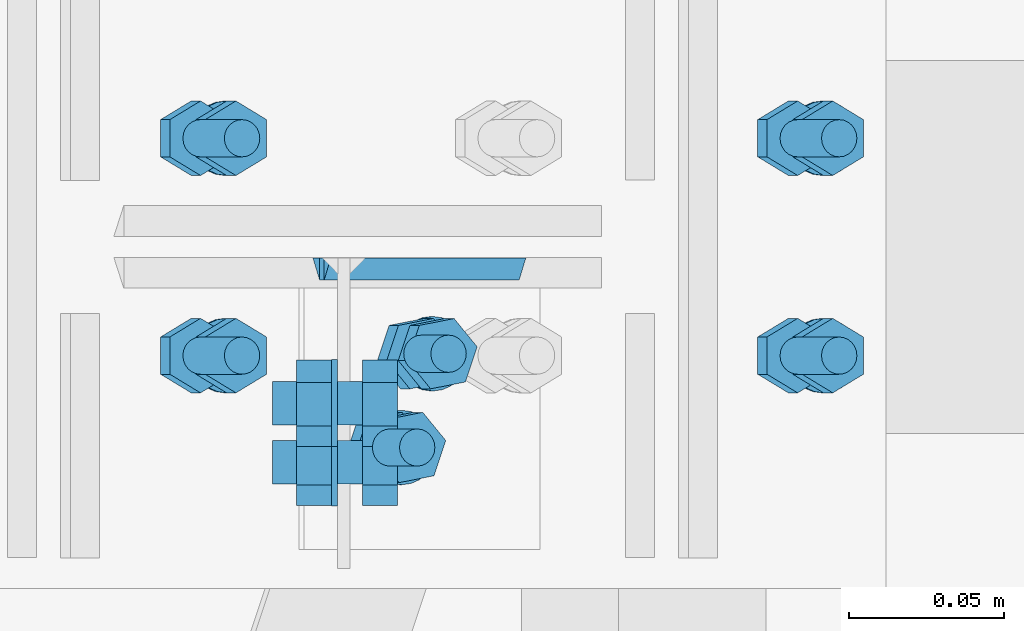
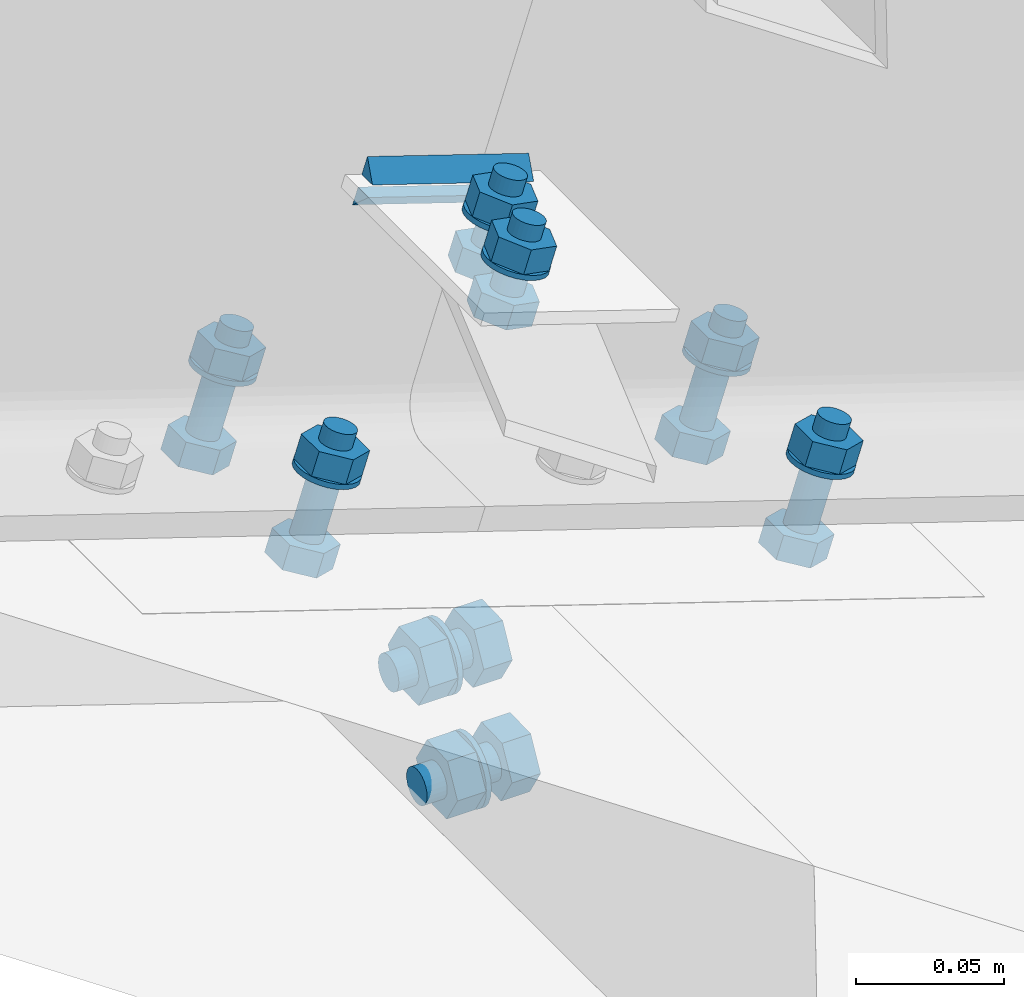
# One storey, part 50 of 53: 32 mechanical fasteners, 2 fasteners.
"""IFC4 building model written with IfcOpenShell, lengths in metres."""

from ifc_helpers import new_model, si_unit, frame, origin_with_axes, place, context, project, spatial, polyline, outline, extrude, type_object, element, save


model = new_model("IFC4")

# Units and contexts
model_context = context("Model", 3, precision=1e-05, world=origin_with_axes())
ifc_project = project(units=[si_unit("LENGTHUNIT", "METRE"), si_unit("AREAUNIT", "SQUARE_METRE"), si_unit("VOLUMEUNIT", "CUBIC_METRE"), si_unit("MASSUNIT", "GRAM", prefix="KILO"), si_unit("TIMEUNIT", "SECOND"), si_unit("PLANEANGLEUNIT", "RADIAN"), si_unit("SOLIDANGLEUNIT", "STERADIAN"), si_unit("THERMODYNAMICTEMPERATUREUNIT", "DEGREE_CELSIUS")], contexts=[model_context])

# Site, building, storey
placement_1 = place(None, origin_with_axes())
site = spatial("IfcSite", under=ifc_project, at=placement_1, Name="Italia", CompositionType="ELEMENT")
building = spatial("IfcBuilding", under=site, at=placement_1, Name="Capannone", CompositionType="ELEMENT")
storey_placement = place(None, frame((0.0, 0.0, 5.550000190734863), z_axis=(0.0, 0.0, 1.0), x_axis=(1.0, 0.0, 0.0)))
storey = spatial("IfcBuildingStorey", under=building, at=storey_placement, Name="Storey 1", CompositionType="ELEMENT", Elevation=5.550000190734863)

# Mechanical fasteners
mechanical_fastener_type_1 = type_object("IfcMechanicalFastenerType", Name="Collegamenti 0102_0002 0104_0004 0106_0006 0108_0008 0110_0010 0112_0012", PredefinedType="BOLT")
placement_2 = place(placement_1, origin_with_axes())
mechanical_fastener_1_placement = place(placement_2, origin_with_axes())
element("IfcMechanicalFastener", 1, at=mechanical_fastener_1_placement, inside=storey, type_object=mechanical_fastener_type_1, Name="Collegamenti 0102_0002 0104_0004 0106_0006 0108_0008 0110_0010 0112_0012", NominalDiameter=0.0119994, context=model_context, shape_type="SweptSolid", body=[
    extrude(outline(polyline([(0.0, 0.0), (-0.0120001, 0.0), (-0.0179996, 0.0103931), (-0.0120001, 0.0207853), (0.0, 0.0207853), (0.00600052, 0.0103931), (0.0, 0.0)])), frame((13.9577, 15.029, 5.54811), z_axis=(-0.312141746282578, 0.0, -0.950035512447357), x_axis=(0.0, -1.0, 0.0)), (0.0, 0.0, 1.0), 0.00959963),
])
mechanical_fastener_type_2 = type_object("IfcMechanicalFastenerType", Name="Collegamenti 0102_0002 0104_0004 0106_0006 0108_0008 0110_0010 0112_0012", PredefinedType="BOLT")
mechanical_fastener_2_placement = place(placement_2, origin_with_axes())
element("IfcMechanicalFastener", 2, at=mechanical_fastener_2_placement, inside=storey, type_object=mechanical_fastener_type_2, Name="Collegamenti 0102_0002 0104_0004 0106_0006 0108_0008 0110_0010 0112_0012", NominalDiameter=0.012, context=model_context, shape_type="SweptSolid", body=[
    extrude(outline(polyline([(0.0, 0.0), (-0.000204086, -0.00155354), (-0.000802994, -0.00300121), (-0.00175667, -0.00424194), (-0.00299931, -0.00519562), (-0.00444698, -0.00579453), (-0.00599957, -0.00599957), (-0.00755215, -0.00579453), (-0.00899982, -0.00519562), (-0.0102425, -0.00424194), (-0.0111961, -0.00300121), (-0.011795, -0.00155354), (-0.0119991, 0.0), (-0.011795, 0.00155354), (-0.0111961, 0.00300026), (-0.0102425, 0.00424194), (-0.00899982, 0.00519657), (-0.00755215, 0.00579548), (-0.00599957, 0.00599957), (-0.00444698, 0.00579548), (-0.00299931, 0.00519657), (-0.00175667, 0.00424194), (-0.000802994, 0.00300026), (-0.000204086, 0.00155354), (0.0, 0.0)])), frame((13.9612, 15.029, 5.59202), z_axis=(-0.312147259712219, 0.0, -0.950033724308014), x_axis=(0.0, -1.0, 0.0)), (0.0, 0.0, 1.0), 0.0428004),
])
mechanical_fastener_type_3 = type_object("IfcMechanicalFastenerType", Name="Collegamenti 0102_0002 0104_0004 0106_0006 0108_0008 0110_0010 0112_0012", PredefinedType="BOLT")
mechanical_fastener_3_placement = place(placement_2, origin_with_axes())
element("IfcMechanicalFastener", 3, at=mechanical_fastener_3_placement, inside=storey, type_object=mechanical_fastener_type_3, Name="Collegamenti 0102_0002 0104_0004 0106_0006 0108_0008 0110_0010 0112_0012", NominalDiameter=0.0119993, context=model_context, shape_type="SweptSolid", body=[
    extrude(outline(polyline([(0.0, 0.0), (-0.0120001, 0.0), (-0.0179996, 0.0103922), (-0.0120001, 0.0207844), (0.0, 0.0207844), (0.00600052, 0.0103922), (0.0, 0.0)])), frame((13.9691, 15.029, 5.5827), z_axis=(-0.312127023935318, 0.0, -0.950040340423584), x_axis=(0.0, -1.0, 0.0)), (0.0, 0.0, 1.0), 0.00960008),
])
mechanical_fastener_type_4 = type_object("IfcMechanicalFastenerType", Name="Collegamenti 0102_0002 0104_0004 0106_0006 0108_0008 0110_0010 0112_0012", PredefinedType="BOLT")
mechanical_fastener_4_placement = place(placement_2, origin_with_axes())
element("IfcMechanicalFastener", 4, at=mechanical_fastener_4_placement, inside=storey, type_object=mechanical_fastener_type_4, Name="Collegamenti 0102_0002 0104_0004 0106_0006 0108_0008 0110_0010 0112_0012", NominalDiameter=0.024, context=model_context, shape_type="SweptSolid", body=[
    extrude(outline(polyline([(0.0, 0.0), (-0.000409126, -0.00310516), (-0.00160789, -0.00600052), (-0.00351524, -0.00848484), (-0.00600052, -0.0103931), (-0.00889397, -0.011591), (-0.0120001, -0.0120001), (-0.0151062, -0.011591), (-0.0179996, -0.0103931), (-0.0204849, -0.00848484), (-0.0223923, -0.00600052), (-0.023591, -0.00310516), (-0.0240002, 0.0), (-0.023591, 0.00310516), (-0.0223923, 0.00599957), (-0.0204849, 0.00848579), (-0.0179996, 0.0103922), (-0.0151062, 0.011591), (-0.0120001, 0.0120001), (-0.00889397, 0.011591), (-0.00600052, 0.0103922), (-0.00351524, 0.00848579), (-0.00160789, 0.00599957), (-0.000409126, 0.00310516), (0.0, 0.0)])), frame((13.9562, 15.023, 5.57682), z_axis=(-0.311790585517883, 0.0, -0.950150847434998), x_axis=(0.0, -1.0, 0.0)), (0.0, 0.0, 1.0), 0.00200039),
])
mechanical_fastener_type_5 = type_object("IfcMechanicalFastenerType", Name="Collegamenti 0102_0002 0104_0004 0106_0006 0108_0008 0110_0010 0112_0012", PredefinedType="BOLT")
mechanical_fastener_5_placement = place(placement_2, origin_with_axes())
element("IfcMechanicalFastener", 5, at=mechanical_fastener_5_placement, inside=storey, type_object=mechanical_fastener_type_5, Name="Collegamenti 0102_0002 0104_0004 0106_0006 0108_0008 0110_0010 0112_0012", NominalDiameter=0.0119994, context=model_context, shape_type="SweptSolid", body=[
    extrude(outline(polyline([(0.0, 0.0), (-0.0120001, 0.0), (-0.0180006, 0.0103931), (-0.0120001, 0.0207853), (0.0, 0.0207853), (0.00599957, 0.0103931), (0.0, 0.0)])), frame((13.9577, 14.959, 5.54811), z_axis=(-0.312141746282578, 0.0, -0.950035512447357), x_axis=(0.0, -1.0, 0.0)), (0.0, 0.0, 1.0), 0.00959963),
])
mechanical_fastener_type_6 = type_object("IfcMechanicalFastenerType", Name="Collegamenti 0102_0002 0104_0004 0106_0006 0108_0008 0110_0010 0112_0012", PredefinedType="BOLT")
mechanical_fastener_6_placement = place(placement_2, origin_with_axes())
element("IfcMechanicalFastener", 6, at=mechanical_fastener_6_placement, inside=storey, type_object=mechanical_fastener_type_6, Name="Collegamenti 0102_0002 0104_0004 0106_0006 0108_0008 0110_0010 0112_0012", NominalDiameter=0.012, context=model_context, shape_type="SweptSolid", body=[
    extrude(outline(polyline([(0.0, 0.0), (-0.000204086, -0.00155354), (-0.000802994, -0.00300121), (-0.00175667, -0.00424194), (-0.00299931, -0.00519562), (-0.00444698, -0.00579453), (-0.00599957, -0.00599957), (-0.00755215, -0.00579453), (-0.00899982, -0.00519562), (-0.0102425, -0.00424194), (-0.0111961, -0.00300121), (-0.011795, -0.00155354), (-0.0119991, 0.0), (-0.011795, 0.00155354), (-0.0111961, 0.00300026), (-0.0102425, 0.00424194), (-0.00899982, 0.00519657), (-0.00755215, 0.00579548), (-0.00599957, 0.00599957), (-0.00444698, 0.00579548), (-0.00299931, 0.00519657), (-0.00175667, 0.00424194), (-0.000802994, 0.00300026), (-0.000204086, 0.00155354), (0.0, 0.0)])), frame((13.9612, 14.959, 5.59202), z_axis=(-0.312147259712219, 0.0, -0.950033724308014), x_axis=(0.0, -1.0, 0.0)), (0.0, 0.0, 1.0), 0.0428004),
])
mechanical_fastener_type_7 = type_object("IfcMechanicalFastenerType", Name="Collegamenti 0102_0002 0104_0004 0106_0006 0108_0008 0110_0010 0112_0012", PredefinedType="BOLT")
mechanical_fastener_7_placement = place(placement_2, origin_with_axes())
element("IfcMechanicalFastener", 7, at=mechanical_fastener_7_placement, inside=storey, type_object=mechanical_fastener_type_7, Name="Collegamenti 0102_0002 0104_0004 0106_0006 0108_0008 0110_0010 0112_0012", NominalDiameter=0.0119993, context=model_context, shape_type="SweptSolid", body=[
    extrude(outline(polyline([(0.0, 0.0), (-0.0120001, 0.0), (-0.0180006, 0.0103922), (-0.0120001, 0.0207844), (0.0, 0.0207844), (0.00599957, 0.0103922), (0.0, 0.0)])), frame((13.9691, 14.959, 5.5827), z_axis=(-0.312127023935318, 0.0, -0.950040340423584), x_axis=(0.0, -1.0, 0.0)), (0.0, 0.0, 1.0), 0.00960008),
])
mechanical_fastener_type_8 = type_object("IfcMechanicalFastenerType", Name="Collegamenti 0102_0002 0104_0004 0106_0006 0108_0008 0110_0010 0112_0012", PredefinedType="BOLT")
mechanical_fastener_8_placement = place(placement_2, origin_with_axes())
element("IfcMechanicalFastener", 8, at=mechanical_fastener_8_placement, inside=storey, type_object=mechanical_fastener_type_8, Name="Collegamenti 0102_0002 0104_0004 0106_0006 0108_0008 0110_0010 0112_0012", NominalDiameter=0.024, context=model_context, shape_type="SweptSolid", body=[
    extrude(outline(polyline([(0.0, 0.0), (-0.000409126, -0.00310516), (-0.00160789, -0.00600052), (-0.00351524, -0.00848484), (-0.00600052, -0.0103931), (-0.00889397, -0.011591), (-0.0120001, -0.0120001), (-0.0151062, -0.011591), (-0.0179996, -0.0103931), (-0.0204849, -0.00848484), (-0.0223923, -0.00600052), (-0.023591, -0.00310516), (-0.0240002, 0.0), (-0.023591, 0.00310516), (-0.0223923, 0.00599957), (-0.0204849, 0.00848579), (-0.0179996, 0.0103922), (-0.0151062, 0.011591), (-0.0120001, 0.0120001), (-0.00889397, 0.011591), (-0.00600052, 0.0103922), (-0.00351524, 0.00848579), (-0.00160789, 0.00599957), (-0.000409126, 0.00310516), (0.0, 0.0)])), frame((13.9562, 14.953, 5.57682), z_axis=(-0.311790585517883, 0.0, -0.950150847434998), x_axis=(0.0, -1.0, 0.0)), (0.0, 0.0, 1.0), 0.00200039),
])
mechanical_fastener_type_9 = type_object("IfcMechanicalFastenerType", Name="Collegamenti 0102_0002 0104_0004 0106_0006 0108_0008 0110_0010 0112_0012", PredefinedType="BOLT")
mechanical_fastener_9_placement = place(placement_2, origin_with_axes())
element("IfcMechanicalFastener", 9, at=mechanical_fastener_9_placement, inside=storey, type_object=mechanical_fastener_type_9, Name="Collegamenti 0102_0002 0104_0004 0106_0006 0108_0008 0110_0010 0112_0012", NominalDiameter=0.0120001, context=model_context, shape_type="SweptSolid", body=[
    extrude(outline(polyline([(0.0, 0.0), (-0.0120001, 0.0), (-0.0179996, 0.0103922), (-0.0120001, 0.0207853), (0.0, 0.0207853), (0.00600052, 0.0103922), (0.0, 0.0)])), frame((14.15, 15.029, 5.48493), z_axis=(-0.312216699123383, 0.0, -0.950010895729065), x_axis=(0.0, -1.0, 0.0)), (0.0, 0.0, 1.0), 0.00960038),
])
mechanical_fastener_type_10 = type_object("IfcMechanicalFastenerType", Name="Collegamenti 0102_0002 0104_0004 0106_0006 0108_0008 0110_0010 0112_0012", PredefinedType="BOLT")
mechanical_fastener_10_placement = place(placement_2, origin_with_axes())
element("IfcMechanicalFastener", 10, at=mechanical_fastener_10_placement, inside=storey, type_object=mechanical_fastener_type_10, Name="Collegamenti 0102_0002 0104_0004 0106_0006 0108_0008 0110_0010 0112_0012", NominalDiameter=0.012, context=model_context, shape_type="SweptSolid", body=[
    extrude(outline(polyline([(0.0, 0.0), (-0.000204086, -0.00155163), (-0.000802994, -0.00299931), (-0.00175667, -0.00424099), (-0.00299931, -0.00519562), (-0.00444698, -0.00579453), (-0.00599957, -0.00599957), (-0.00755215, -0.00579453), (-0.00899982, -0.00519562), (-0.0102425, -0.00424099), (-0.0111961, -0.00299931), (-0.011795, -0.00155163), (-0.0119991, 0.0), (-0.011795, 0.00155354), (-0.0111961, 0.00300121), (-0.0102425, 0.0042429), (-0.00899982, 0.00519657), (-0.00755215, 0.00579548), (-0.00599957, 0.00600052), (-0.00444698, 0.00579548), (-0.00299931, 0.00519657), (-0.00175667, 0.0042429), (-0.000802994, 0.00300121), (-0.000204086, 0.00155354), (0.0, 0.0)])), frame((14.1535, 15.029, 5.52884), z_axis=(-0.312150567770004, 0.0, -0.950032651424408), x_axis=(0.0, -1.0, 0.0)), (0.0, 0.0, 1.0), 0.0427999),
])
mechanical_fastener_type_11 = type_object("IfcMechanicalFastenerType", Name="Collegamenti 0102_0002 0104_0004 0106_0006 0108_0008 0110_0010 0112_0012", PredefinedType="BOLT")
mechanical_fastener_11_placement = place(placement_2, origin_with_axes())
element("IfcMechanicalFastener", 11, at=mechanical_fastener_11_placement, inside=storey, type_object=mechanical_fastener_type_11, Name="Collegamenti 0102_0002 0104_0004 0106_0006 0108_0008 0110_0010 0112_0012", NominalDiameter=0.0119993, context=model_context, shape_type="SweptSolid", body=[
    extrude(outline(polyline([(0.0, 0.0), (-0.0120001, 0.0), (-0.0179996, 0.0103931), (-0.0120001, 0.0207853), (0.0, 0.0207853), (0.00600052, 0.0103931), (0.0, 0.0)])), frame((14.1613, 15.029, 5.51952), z_axis=(-0.312127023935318, 0.0, -0.950040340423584), x_axis=(0.0, -1.0, 0.0)), (0.0, 0.0, 1.0), 0.00960008),
])
mechanical_fastener_type_12 = type_object("IfcMechanicalFastenerType", Name="Collegamenti 0102_0002 0104_0004 0106_0006 0108_0008 0110_0010 0112_0012", PredefinedType="BOLT")
mechanical_fastener_12_placement = place(placement_2, origin_with_axes())
element("IfcMechanicalFastener", 12, at=mechanical_fastener_12_placement, inside=storey, type_object=mechanical_fastener_type_12, Name="Collegamenti 0102_0002 0104_0004 0106_0006 0108_0008 0110_0010 0112_0012", NominalDiameter=0.024, context=model_context, shape_type="SweptSolid", body=[
    extrude(outline(polyline([(0.0, 0.0), (-0.000409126, -0.00310612), (-0.00160789, -0.00600052), (-0.00351524, -0.00848484), (-0.00600052, -0.0103922), (-0.00889397, -0.011591), (-0.0120001, -0.0120001), (-0.0151062, -0.011591), (-0.0179996, -0.0103922), (-0.0204849, -0.00848484), (-0.0223923, -0.00600052), (-0.023591, -0.00310612), (-0.0240002, 0.0), (-0.023591, 0.00310612), (-0.0223923, 0.00599957), (-0.0204849, 0.00848579), (-0.0179996, 0.0103922), (-0.0151062, 0.0115919), (-0.0120001, 0.0120001), (-0.00889397, 0.0115919), (-0.00600052, 0.0103922), (-0.00351524, 0.00848579), (-0.00160789, 0.00599957), (-0.000409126, 0.00310612), (0.0, 0.0)])), frame((14.1485, 15.023, 5.51364), z_axis=(-0.311790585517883, 0.0, -0.950150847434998), x_axis=(0.0, -1.0, 0.0)), (0.0, 0.0, 1.0), 0.00200039),
])
mechanical_fastener_type_13 = type_object("IfcMechanicalFastenerType", Name="Collegamenti 0102_0002 0104_0004 0106_0006 0108_0008 0110_0010 0112_0012", PredefinedType="BOLT")
mechanical_fastener_13_placement = place(placement_2, origin_with_axes())
element("IfcMechanicalFastener", 13, at=mechanical_fastener_13_placement, inside=storey, type_object=mechanical_fastener_type_13, Name="Collegamenti 0102_0002 0104_0004 0106_0006 0108_0008 0110_0010 0112_0012", NominalDiameter=0.0120001, context=model_context, shape_type="SweptSolid", body=[
    extrude(outline(polyline([(0.0, 0.0), (-0.0120001, 0.0), (-0.0180006, 0.0103922), (-0.0120001, 0.0207853), (0.0, 0.0207853), (0.00599957, 0.0103922), (0.0, 0.0)])), frame((14.15, 14.959, 5.48493), z_axis=(-0.312216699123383, 0.0, -0.950010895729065), x_axis=(0.0, -1.0, 0.0)), (0.0, 0.0, 1.0), 0.00960038),
])
mechanical_fastener_type_14 = type_object("IfcMechanicalFastenerType", Name="Collegamenti 0102_0002 0104_0004 0106_0006 0108_0008 0110_0010 0112_0012", PredefinedType="BOLT")
mechanical_fastener_14_placement = place(placement_2, origin_with_axes())
element("IfcMechanicalFastener", 14, at=mechanical_fastener_14_placement, inside=storey, type_object=mechanical_fastener_type_14, Name="Collegamenti 0102_0002 0104_0004 0106_0006 0108_0008 0110_0010 0112_0012", NominalDiameter=0.012, context=model_context, shape_type="SweptSolid", body=[
    extrude(outline(polyline([(0.0, 0.0), (-0.000204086, -0.00155163), (-0.000802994, -0.00299931), (-0.00175667, -0.00424099), (-0.00299931, -0.00519562), (-0.00444698, -0.00579453), (-0.00599957, -0.00599957), (-0.00755215, -0.00579453), (-0.00899982, -0.00519562), (-0.0102425, -0.00424099), (-0.0111961, -0.00299931), (-0.011795, -0.00155163), (-0.0119991, 0.0), (-0.011795, 0.00155354), (-0.0111961, 0.00300121), (-0.0102425, 0.0042429), (-0.00899982, 0.00519657), (-0.00755215, 0.00579548), (-0.00599957, 0.00600052), (-0.00444698, 0.00579548), (-0.00299931, 0.00519657), (-0.00175667, 0.0042429), (-0.000802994, 0.00300121), (-0.000204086, 0.00155354), (0.0, 0.0)])), frame((14.1535, 14.959, 5.52884), z_axis=(-0.312150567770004, 0.0, -0.950032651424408), x_axis=(0.0, -1.0, 0.0)), (0.0, 0.0, 1.0), 0.0427999),
])
mechanical_fastener_type_15 = type_object("IfcMechanicalFastenerType", Name="Collegamenti 0102_0002 0104_0004 0106_0006 0108_0008 0110_0010 0112_0012", PredefinedType="BOLT")
mechanical_fastener_15_placement = place(placement_2, origin_with_axes())
element("IfcMechanicalFastener", 15, at=mechanical_fastener_15_placement, inside=storey, type_object=mechanical_fastener_type_15, Name="Collegamenti 0102_0002 0104_0004 0106_0006 0108_0008 0110_0010 0112_0012", NominalDiameter=0.0119993, context=model_context, shape_type="SweptSolid", body=[
    extrude(outline(polyline([(0.0, 0.0), (-0.0120001, 0.0), (-0.0180006, 0.0103931), (-0.0120001, 0.0207853), (0.0, 0.0207853), (0.00599957, 0.0103931), (0.0, 0.0)])), frame((14.1613, 14.959, 5.51952), z_axis=(-0.312127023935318, 0.0, -0.950040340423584), x_axis=(0.0, -1.0, 0.0)), (0.0, 0.0, 1.0), 0.00960008),
])
mechanical_fastener_type_16 = type_object("IfcMechanicalFastenerType", Name="Collegamenti 0102_0002 0104_0004 0106_0006 0108_0008 0110_0010 0112_0012", PredefinedType="BOLT")
mechanical_fastener_16_placement = place(placement_2, origin_with_axes())
element("IfcMechanicalFastener", 16, at=mechanical_fastener_16_placement, inside=storey, type_object=mechanical_fastener_type_16, Name="Collegamenti 0102_0002 0104_0004 0106_0006 0108_0008 0110_0010 0112_0012", NominalDiameter=0.024, context=model_context, shape_type="SweptSolid", body=[
    extrude(outline(polyline([(0.0, 0.0), (-0.000409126, -0.00310612), (-0.00160789, -0.00600052), (-0.00351524, -0.00848484), (-0.00600052, -0.0103922), (-0.00889397, -0.011591), (-0.0120001, -0.0120001), (-0.0151062, -0.011591), (-0.0179996, -0.0103922), (-0.0204849, -0.00848484), (-0.0223923, -0.00600052), (-0.023591, -0.00310612), (-0.0240002, 0.0), (-0.023591, 0.00310612), (-0.0223923, 0.00599957), (-0.0204849, 0.00848579), (-0.0179996, 0.0103922), (-0.0151062, 0.0115919), (-0.0120001, 0.0120001), (-0.00889397, 0.0115919), (-0.00600052, 0.0103922), (-0.00351524, 0.00848579), (-0.00160789, 0.00599957), (-0.000409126, 0.00310612), (0.0, 0.0)])), frame((14.1485, 14.953, 5.51364), z_axis=(-0.311790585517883, 0.0, -0.950150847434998), x_axis=(0.0, -1.0, 0.0)), (0.0, 0.0, 1.0), 0.00200039),
])
mechanical_fastener_type_17 = type_object("IfcMechanicalFastenerType", Name="Collegamento 0112_-1056", PredefinedType="BOLT")
mechanical_fastener_17_placement = place(placement_2, origin_with_axes())
element("IfcMechanicalFastener", 17, at=mechanical_fastener_17_placement, inside=storey, type_object=mechanical_fastener_type_17, Name="Collegamento 0112_-1056", NominalDiameter=0.0119995, context=model_context, shape_type="SweptSolid", body=[
    extrude(outline(polyline([(0.0, 0.0), (-0.011323, -0.00397301), (-0.0135441, -0.0157652), (-0.00444126, -0.0235853), (0.00688171, -0.0196114), (0.00910282, -0.00781918), (0.0, 0.0)])), frame((14.0078, 14.9634, 5.65008), z_axis=(-0.312141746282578, 0.0, -0.950035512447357), x_axis=(0.0, -1.0, 0.0)), (0.0, 0.0, 1.0), 0.00959963),
])
mechanical_fastener_type_18 = type_object("IfcMechanicalFastenerType", Name="Collegamento 0112_-1056", PredefinedType="BOLT")
mechanical_fastener_18_placement = place(placement_2, origin_with_axes())
element("IfcMechanicalFastener", 18, at=mechanical_fastener_18_placement, inside=storey, type_object=mechanical_fastener_type_18, Name="Collegamento 0112_-1056", NominalDiameter=0.012, context=model_context, shape_type="SweptSolid", body=[
    extrude(outline(polyline([(0.0, 0.0), (-0.000204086, -0.00155258), (-0.000802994, -0.00299931), (-0.00175667, -0.00424194), (-0.00299931, -0.00519562), (-0.00444698, -0.00579453), (-0.00599957, -0.00599957), (-0.00755215, -0.00579453), (-0.00899982, -0.00519562), (-0.0102425, -0.00424194), (-0.0111961, -0.00299931), (-0.011795, -0.00155258), (-0.0119991, 0.0), (-0.011795, 0.00155354), (-0.0111961, 0.00300121), (-0.0102425, 0.0042429), (-0.00899982, 0.00519657), (-0.00755215, 0.00579548), (-0.00599957, 0.00600052), (-0.00444698, 0.00579548), (-0.00299931, 0.00519657), (-0.00175667, 0.0042429), (-0.000802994, 0.00300121), (-0.000204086, 0.00155354), (0.0, 0.0)])), frame((14.0277, 14.9596, 5.673), z_axis=(-0.312158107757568, 0.0, -0.950030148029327), x_axis=(0.0, -1.0, 0.0)), (0.0, 0.0, 1.0), 0.028),
])
mechanical_fastener_type_19 = type_object("IfcMechanicalFastenerType", Name="Collegamento 0112_-1056", PredefinedType="BOLT")
mechanical_fastener_19_placement = place(placement_2, origin_with_axes())
element("IfcMechanicalFastener", 19, at=mechanical_fastener_19_placement, inside=storey, type_object=mechanical_fastener_type_19, Name="Collegamento 0112_-1056", NominalDiameter=0.0119995, context=model_context, shape_type="SweptSolid", body=[
    extrude(outline(polyline([(0.0, 0.0), (-0.011323, -0.00397301), (-0.0135441, -0.0157652), (-0.00444126, -0.0235844), (0.00688171, -0.0196114), (0.00910282, -0.00782013), (0.0, 0.0)])), frame((14.0145, 14.9634, 5.6706), z_axis=(-0.312141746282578, 0.0, -0.950035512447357), x_axis=(0.0, -1.0, 0.0)), (0.0, 0.0, 1.0), 0.00959963),
])
mechanical_fastener_type_20 = type_object("IfcMechanicalFastenerType", Name="Collegamento 0112_-1056", PredefinedType="BOLT")
mechanical_fastener_20_placement = place(placement_2, origin_with_axes())
element("IfcMechanicalFastener", 20, at=mechanical_fastener_20_placement, inside=storey, type_object=mechanical_fastener_type_20, Name="Collegamento 0112_-1056", NominalDiameter=0.024, context=model_context, shape_type="SweptSolid", body=[
    extrude(outline(polyline([(0.0, 0.0), (-0.000409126, -0.00310516), (-0.00160789, -0.00599957), (-0.00351524, -0.00848579), (-0.00600052, -0.0103922), (-0.00889397, -0.011591), (-0.0120001, -0.0119991), (-0.0151062, -0.011591), (-0.0179996, -0.0103922), (-0.0204849, -0.00848579), (-0.0223923, -0.00599957), (-0.023591, -0.00310516), (-0.0240002, 0.0), (-0.023591, 0.00310516), (-0.0223923, 0.00599957), (-0.0204849, 0.00848579), (-0.0179996, 0.0103922), (-0.0151062, 0.011591), (-0.0120001, 0.0119991), (-0.00889397, 0.011591), (-0.00600052, 0.0103922), (-0.00351524, 0.00848579), (-0.00160789, 0.00599957), (-0.000409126, 0.00310516), (0.0, 0.0)])), frame((14.0227, 14.9536, 5.6578), z_axis=(-0.311861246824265, 0.0, -0.95012766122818), x_axis=(0.0, -1.0, 0.0)), (0.0, 0.0, 1.0), 0.00199994),
])
mechanical_fastener_type_21 = type_object("IfcMechanicalFastenerType", Name="Collegamento 0112_-1056", PredefinedType="BOLT")
mechanical_fastener_21_placement = place(placement_2, origin_with_axes())
element("IfcMechanicalFastener", 21, at=mechanical_fastener_21_placement, inside=storey, type_object=mechanical_fastener_type_21, Name="Collegamento 0112_-1056", NominalDiameter=0.0119995, context=model_context, shape_type="SweptSolid", body=[
    extrude(outline(polyline([(0.0, 0.0), (-0.011323, -0.00397301), (-0.0135441, -0.0157652), (-0.00444126, -0.0235853), (0.00688171, -0.0196123), (0.00910282, -0.00782013), (0.0, 0.0)])), frame((13.9977, 14.9332, 5.65339), z_axis=(-0.312127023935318, 0.0, -0.950040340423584), x_axis=(0.0, -1.0, 0.0)), (0.0, 0.0, 1.0), 0.00960008),
])
mechanical_fastener_type_22 = type_object("IfcMechanicalFastenerType", Name="Collegamento 0112_-1056", PredefinedType="BOLT")
mechanical_fastener_22_placement = place(placement_2, origin_with_axes())
element("IfcMechanicalFastener", 22, at=mechanical_fastener_22_placement, inside=storey, type_object=mechanical_fastener_type_22, Name="Collegamento 0112_-1056", NominalDiameter=0.012, context=model_context, shape_type="SweptSolid", body=[
    extrude(outline(polyline([(0.0, 0.0), (-0.000204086, -0.00155354), (-0.000802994, -0.00300121), (-0.00175667, -0.0042429), (-0.00299931, -0.00519657), (-0.00444698, -0.00579643), (-0.00599957, -0.00599957), (-0.00755215, -0.00579643), (-0.00899982, -0.00519657), (-0.0102425, -0.0042429), (-0.0111961, -0.00300121), (-0.011795, -0.00155354), (-0.0119991, 0.0), (-0.011795, 0.00155258), (-0.0111961, 0.00299931), (-0.0102425, 0.00424194), (-0.00899982, 0.00519466), (-0.00755215, 0.00579453), (-0.00599957, 0.00599957), (-0.00444698, 0.00579453), (-0.00299931, 0.00519466), (-0.00175667, 0.00424194), (-0.000802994, 0.00299931), (-0.000204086, 0.00155258), (0.0, 0.0)])), frame((14.0176, 14.9294, 5.67631), z_axis=(-0.312158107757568, 0.0, -0.950030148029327), x_axis=(0.0, -1.0, 0.0)), (0.0, 0.0, 1.0), 0.028),
])
mechanical_fastener_type_23 = type_object("IfcMechanicalFastenerType", Name="Collegamento 0112_-1056", PredefinedType="BOLT")
mechanical_fastener_23_placement = place(placement_2, origin_with_axes())
element("IfcMechanicalFastener", 23, at=mechanical_fastener_23_placement, inside=storey, type_object=mechanical_fastener_type_23, Name="Collegamento 0112_-1056", NominalDiameter=0.0119995, context=model_context, shape_type="SweptSolid", body=[
    extrude(outline(polyline([(0.0, 0.0), (-0.011323, -0.00397301), (-0.0135441, -0.0157652), (-0.00444126, -0.0235844), (0.00688171, -0.0196123), (0.00910282, -0.00781918), (0.0, 0.0)])), frame((14.0044, 14.9332, 5.67391), z_axis=(-0.312127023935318, 0.0, -0.950040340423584), x_axis=(0.0, -1.0, 0.0)), (0.0, 0.0, 1.0), 0.00960008),
])
mechanical_fastener_type_24 = type_object("IfcMechanicalFastenerType", Name="Collegamento 0112_-1056", PredefinedType="BOLT")
mechanical_fastener_24_placement = place(placement_2, origin_with_axes())
element("IfcMechanicalFastener", 24, at=mechanical_fastener_24_placement, inside=storey, type_object=mechanical_fastener_type_24, Name="Collegamento 0112_-1056", NominalDiameter=0.024, context=model_context, shape_type="SweptSolid", body=[
    extrude(outline(polyline([(0.0, 0.0), (-0.000409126, -0.00310516), (-0.00160789, -0.00600052), (-0.00351524, -0.00848579), (-0.00600052, -0.0103922), (-0.00889397, -0.011591), (-0.0120001, -0.0120001), (-0.0151062, -0.011591), (-0.0179996, -0.0103922), (-0.0204849, -0.00848579), (-0.0223923, -0.00600052), (-0.023591, -0.00310516), (-0.0240002, 0.0), (-0.023591, 0.00310516), (-0.0223923, 0.00600052), (-0.0204849, 0.00848579), (-0.0179996, 0.0103931), (-0.0151062, 0.011591), (-0.0120001, 0.0119991), (-0.00889397, 0.011591), (-0.00600052, 0.0103931), (-0.00351524, 0.00848579), (-0.00160789, 0.00600052), (-0.000409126, 0.00310516), (0.0, 0.0)])), frame((14.0126, 14.9234, 5.66111), z_axis=(-0.311861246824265, 0.0, -0.95012766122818), x_axis=(0.0, -1.0, 0.0)), (0.0, 0.0, 1.0), 0.00199994),
])

# Fasteners
fastener_type_1 = type_object("IfcFastenerType", Name="Collegamento 0112_-1056", PredefinedType="WELD")
fastener_1_placement = place(placement_2, origin_with_axes())
element("IfcFastener", 25, at=fastener_1_placement, inside=storey, type_object=fastener_type_1, Name="Collegamento 0112_-1056", context=model_context, shape_type="SweptSolid", body=[
    extrude(outline(polyline([(0.0, 0.0), (0.00717258, -0.00695801), (0.0, -0.00695801), (0.0, 0.0)])), frame((14.0526, 14.9965, 5.65313), z_axis=(-0.950028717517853, 0.0, 0.312162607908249), x_axis=(0.0, -1.0, 0.0)), (0.0, 0.0, 1.0), 0.0660977),
])
fastener_type_2 = type_object("IfcFastenerType", Name="Collegamento 0112_-1056", PredefinedType="WELD")
fastener_2_placement = place(placement_2, origin_with_axes())
element("IfcFastener", 26, at=fastener_2_placement, inside=storey, type_object=fastener_type_2, Name="Collegamento 0112_-1056", context=model_context, shape_type="SweptSolid", body=[
    extrude(outline(polyline([(0.0, 0.0), (-0.00717258, 0.00695896), (0.0, 0.00695896), (0.0, 0.0)])), frame((13.984, 14.9965, 5.65588), z_axis=(0.950026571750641, 0.0, -0.312169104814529), x_axis=(0.0, 1.0, 0.0)), (0.0, 0.0, 1.0), 0.0660978),
])

# Mechanical fasteners
mechanical_fastener_type_25 = type_object("IfcMechanicalFastenerType", Name="Collegamento 0112_0010", PredefinedType="BOLT")
mechanical_fastener_25_placement = place(placement_2, origin_with_axes())
element("IfcMechanicalFastener", 27, at=mechanical_fastener_25_placement, inside=storey, type_object=mechanical_fastener_type_25, Name="Collegamento 0112_0010", NominalDiameter=0.0139996, context=model_context, shape_type="SweptSolid", body=[
    extrude(outline(polyline([(0.0, 0.0), (0.00665665, 0.0123162), (-0.000680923, 0.0242395), (-0.0146751, 0.0238466), (-0.0213318, 0.0115309), (-0.0139952, -0.000392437), (0.0, 0.0)])), frame((14.0, 14.957, 5.48433), z_axis=(1.0, 0.0, 0.0), x_axis=(0.0, 1.0, 0.0)), (0.0, 0.0, 1.0), 0.0112),
])
mechanical_fastener_type_26 = type_object("IfcMechanicalFastenerType", Name="Collegamento 0112_0010", PredefinedType="BOLT")
mechanical_fastener_26_placement = place(placement_2, origin_with_axes())
element("IfcMechanicalFastener", 28, at=mechanical_fastener_26_placement, inside=storey, type_object=mechanical_fastener_type_26, Name="Collegamento 0112_0010", NominalDiameter=0.014, context=model_context, shape_type="SweptSolid", body=[
    extrude(outline(polyline([(0.0, 0.0), (-0.000238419, -0.0018115), (-0.000937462, -0.00349998), (-0.0020504, -0.00494957), (-0.00349998, -0.00606203), (-0.00518799, -0.00676155), (-0.00699997, -0.00699997), (-0.00881195, -0.00676155), (-0.0105, -0.00606203), (-0.0119495, -0.00494957), (-0.0130625, -0.00349998), (-0.0137615, -0.0018115), (-0.0139999, 0.0), (-0.0137615, 0.0018115), (-0.0130625, 0.00349998), (-0.0119495, 0.00494957), (-0.0105, 0.00606203), (-0.00881195, 0.00676155), (-0.00699997, 0.00699997), (-0.00518799, 0.00676155), (-0.00349998, 0.00606203), (-0.0020504, 0.00494957), (-0.000937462, 0.00349998), (-0.000238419, 0.0018115), (0.0, 0.0)])), frame((13.971, 14.9567, 5.49626), z_axis=(1.0, 0.0, 0.0), x_axis=(0.0, 1.0, 0.0)), (0.0, 0.0, 1.0), 0.0289993),
])
mechanical_fastener_type_27 = type_object("IfcMechanicalFastenerType", Name="Collegamento 0112_0010", PredefinedType="BOLT")
mechanical_fastener_27_placement = place(placement_2, origin_with_axes())
element("IfcMechanicalFastener", 29, at=mechanical_fastener_27_placement, inside=storey, type_object=mechanical_fastener_type_27, Name="Collegamento 0112_0010", NominalDiameter=0.0139996, context=model_context, shape_type="SweptSolid", body=[
    extrude(outline(polyline([(0.0, 0.0), (0.00665665, 0.0123162), (-0.000680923, 0.0242395), (-0.0146751, 0.0238466), (-0.0213318, 0.0115309), (-0.0139952, -0.000392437), (0.0, 0.0)])), frame((13.9788, 14.957, 5.48433), z_axis=(1.0, 0.0, 0.0), x_axis=(0.0, 1.0, 0.0)), (0.0, 0.0, 1.0), 0.0112),
])
mechanical_fastener_type_28 = type_object("IfcMechanicalFastenerType", Name="Collegamento 0112_0010", PredefinedType="BOLT")
mechanical_fastener_28_placement = place(placement_2, origin_with_axes())
element("IfcMechanicalFastener", 30, at=mechanical_fastener_28_placement, inside=storey, type_object=mechanical_fastener_type_28, Name="Collegamento 0112_0010", NominalDiameter=0.028, context=model_context, shape_type="SweptSolid", body=[
    extrude(outline(polyline([(0.0, 0.0), (-0.000476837, -0.00362349), (-0.00187588, -0.00699997), (-0.0041008, -0.00989962), (-0.00699997, -0.0121245), (-0.0103769, -0.0135231), (-0.0139999, -0.0139999), (-0.0176229, -0.0135231), (-0.0209999, -0.0121245), (-0.0238991, -0.00989962), (-0.026124, -0.00699997), (-0.027523, -0.00362349), (-0.0279999, 0.0), (-0.027523, 0.00362349), (-0.026124, 0.00699997), (-0.0238991, 0.00989962), (-0.0209999, 0.0121245), (-0.0176229, 0.0135231), (-0.0139999, 0.0139999), (-0.0103769, 0.0135231), (-0.00699997, 0.0121245), (-0.0041008, 0.00989962), (-0.00187588, 0.00699997), (-0.000476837, 0.00362349), (0.0, 0.0)])), frame((13.99, 14.9637, 5.49626), z_axis=(1.0, 0.0, 0.0), x_axis=(0.0, 1.0, 0.0)), (0.0, 0.0, 1.0), 0.00199986),
])
mechanical_fastener_type_29 = type_object("IfcMechanicalFastenerType", Name="Collegamento 0112_0010", PredefinedType="BOLT")
mechanical_fastener_29_placement = place(placement_2, origin_with_axes())
element("IfcMechanicalFastener", 31, at=mechanical_fastener_29_placement, inside=storey, type_object=mechanical_fastener_type_29, Name="Collegamento 0112_0010", NominalDiameter=0.0139997, context=model_context, shape_type="SweptSolid", body=[
    extrude(outline(polyline([(0.0, 0.0), (0.0066576, 0.0123158), (-0.00067997, 0.0242391), (-0.0146742, 0.0238466), (-0.0213318, 0.0115309), (-0.0139942, -0.000392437), (0.0, 0.0)])), frame((14.0, 14.938, 5.44914), z_axis=(1.0, 0.0, 0.0), x_axis=(0.0, 1.0, 0.0)), (0.0, 0.0, 1.0), 0.0112),
])
mechanical_fastener_type_30 = type_object("IfcMechanicalFastenerType", Name="Collegamento 0112_0010", PredefinedType="BOLT")
mechanical_fastener_30_placement = place(placement_2, origin_with_axes())
element("IfcMechanicalFastener", 32, at=mechanical_fastener_30_placement, inside=storey, type_object=mechanical_fastener_type_30, Name="Collegamento 0112_0010", NominalDiameter=0.014, context=model_context, shape_type="SweptSolid", body=[
    extrude(outline(polyline([(0.0, 0.0), (-0.000238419, -0.0018115), (-0.000937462, -0.00349998), (-0.0020504, -0.00494957), (-0.00349998, -0.00606203), (-0.00518799, -0.00676155), (-0.00699997, -0.00699997), (-0.00881195, -0.00676155), (-0.0105, -0.00606203), (-0.0119495, -0.00494957), (-0.0130625, -0.00349998), (-0.0137615, -0.0018115), (-0.0139999, 0.0), (-0.0137615, 0.0018115), (-0.0130625, 0.00349998), (-0.0119495, 0.00494957), (-0.0105, 0.00606203), (-0.00881195, 0.00676155), (-0.00699997, 0.00699997), (-0.00518799, 0.00676155), (-0.00349998, 0.00606203), (-0.0020504, 0.00494957), (-0.000937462, 0.00349998), (-0.000238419, 0.0018115), (0.0, 0.0)])), frame((13.971, 14.9376, 5.46107), z_axis=(1.0, 0.0, 0.0), x_axis=(0.0, 1.0, 0.0)), (0.0, 0.0, 1.0), 0.0289993),
])
mechanical_fastener_type_31 = type_object("IfcMechanicalFastenerType", Name="Collegamento 0112_0010", PredefinedType="BOLT")
mechanical_fastener_31_placement = place(placement_2, origin_with_axes())
element("IfcMechanicalFastener", 33, at=mechanical_fastener_31_placement, inside=storey, type_object=mechanical_fastener_type_31, Name="Collegamento 0112_0010", NominalDiameter=0.0139997, context=model_context, shape_type="SweptSolid", body=[
    extrude(outline(polyline([(0.0, 0.0), (0.0066576, 0.0123158), (-0.00067997, 0.0242391), (-0.0146742, 0.0238466), (-0.0213318, 0.0115309), (-0.0139942, -0.000392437), (0.0, 0.0)])), frame((13.9788, 14.938, 5.44914), z_axis=(1.0, 0.0, 0.0), x_axis=(0.0, 1.0, 0.0)), (0.0, 0.0, 1.0), 0.0112),
])
mechanical_fastener_type_32 = type_object("IfcMechanicalFastenerType", Name="Collegamento 0112_0010", PredefinedType="BOLT")
mechanical_fastener_32_placement = place(placement_2, origin_with_axes())
element("IfcMechanicalFastener", 34, at=mechanical_fastener_32_placement, inside=storey, type_object=mechanical_fastener_type_32, Name="Collegamento 0112_0010", NominalDiameter=0.028, context=model_context, shape_type="SweptSolid", body=[
    extrude(outline(polyline([(0.0, 0.0), (-0.000476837, -0.00362349), (-0.00187588, -0.00699997), (-0.0041008, -0.00989962), (-0.00699997, -0.0121245), (-0.0103769, -0.0135231), (-0.0139999, -0.0139999), (-0.0176229, -0.0135231), (-0.0209999, -0.0121245), (-0.0238991, -0.00989962), (-0.026124, -0.00699997), (-0.027523, -0.00362349), (-0.0279999, 0.0), (-0.027523, 0.00362349), (-0.026124, 0.00699997), (-0.0238991, 0.00989962), (-0.0209999, 0.0121245), (-0.0176229, 0.0135231), (-0.0139999, 0.0139999), (-0.0103769, 0.0135231), (-0.00699997, 0.0121245), (-0.0041008, 0.00989962), (-0.00187588, 0.00699997), (-0.000476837, 0.00362349), (0.0, 0.0)])), frame((13.99, 14.9446, 5.46107), z_axis=(1.0, 0.0, 0.0), x_axis=(0.0, 1.0, 0.0)), (0.0, 0.0, 1.0), 0.00199986),
])

save(model, "model.ifc")
